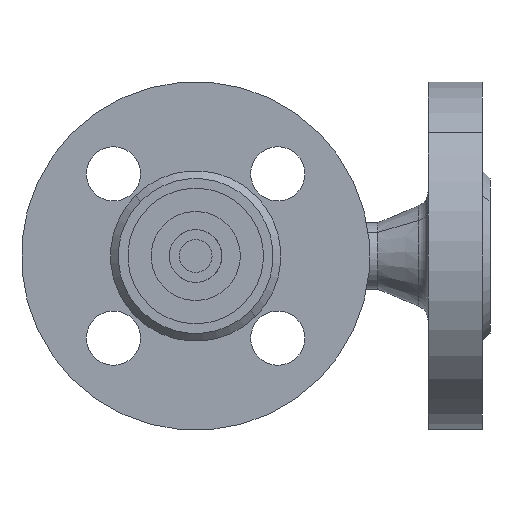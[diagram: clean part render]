
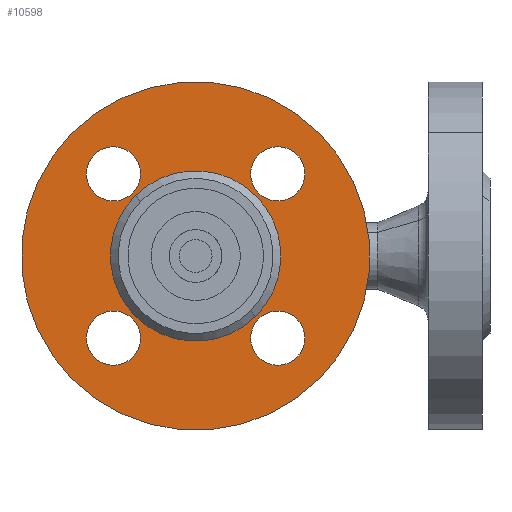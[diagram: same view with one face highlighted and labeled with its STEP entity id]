
A CAD part, front view. The second image highlights one B-rep face of the part: STEP entity #10598.
In plain terms, the highlighted planar face has unit normal (0, -1, 0).
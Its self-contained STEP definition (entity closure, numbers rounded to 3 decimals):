
#16491 = EDGE_LOOP ( 'NONE', ( #15970, #15082 ) ) ;
#213 = ORIENTED_EDGE ( 'NONE', *, *, #6995, .T. ) ;
#16740 = ORIENTED_EDGE ( 'NONE', *, *, #15158, .T. ) ;
#17082 = CIRCLE ( 'NONE', #17083, 7. ) ;
#17083 = AXIS2_PLACEMENT_3D ( 'NONE', #17084, #17085, #17086 ) ;
#17084 = CARTESIAN_POINT ( 'NONE',  ( -30., 2., 0. ) ) ;
#17085 = DIRECTION ( 'NONE',  ( 0., 1., 0. ) ) ;
#17086 = DIRECTION ( 'NONE',  ( -1., 0., 0. ) ) ;
#17252 = EDGE_CURVE ( 'NONE', #14717, #14938, #17082, .T. ) ;
#17299 = CARTESIAN_POINT ( 'NONE',  ( 22., 2., 0. ) ) ;
#929 = CARTESIAN_POINT ( 'NONE',  ( -7., 2., 30. ) ) ;
#17420 = CIRCLE ( 'NONE', #17421, 22. ) ;
#17421 = AXIS2_PLACEMENT_3D ( 'NONE', #17422, #17423, #17424 ) ;
#17422 = CARTESIAN_POINT ( 'NONE',  ( 0., 2., 0. ) ) ;
#17423 = DIRECTION ( 'NONE',  ( 0., 1., 0. ) ) ;
#17424 = DIRECTION ( 'NONE',  ( -1., 0., 0. ) ) ;
#1180 = EDGE_LOOP ( 'NONE', ( #213, #21938 ) ) ;
#17619 = ORIENTED_EDGE ( 'NONE', *, *, #17252, .T. ) ;
#17658 = EDGE_CURVE ( 'NONE', #8051, #6769, #17420, .T. ) ;
#1626 = ORIENTED_EDGE ( 'NONE', *, *, #12025, .F. ) ;
#18158 = EDGE_LOOP ( 'NONE', ( #17619, #16740 ) ) ;
#1821 = CARTESIAN_POINT ( 'NONE',  ( 7., 2., 30. ) ) ;
#1860 = CARTESIAN_POINT ( 'NONE',  ( -7., 2., -30. ) ) ;
#1932 = FACE_BOUND ( 'NONE', #10360, .T. ) ;
#1933 = FACE_BOUND ( 'NONE', #18158, .T. ) ;
#1950 = FACE_BOUND ( 'NONE', #16491, .T. ) ;
#1951 = FACE_BOUND ( 'NONE', #14844, .T. ) ;
#1952 = FACE_OUTER_BOUND ( 'NONE', #3551, .T. ) ;
#1953 = FACE_BOUND ( 'NONE', #1180, .T. ) ;
#1954 = PLANE ( 'NONE',  #1955 ) ;
#1955 = AXIS2_PLACEMENT_3D ( 'NONE', #1956, #1957, #1958 ) ;
#1956 = CARTESIAN_POINT ( 'NONE',  ( 22., 2., 0. ) ) ;
#1957 = DIRECTION ( 'NONE',  ( 0., 1., 0. ) ) ;
#1958 = DIRECTION ( 'NONE',  ( -1., 0., 0. ) ) ;
#2139 = CIRCLE ( 'NONE', #2157, 7. ) ;
#2157 = AXIS2_PLACEMENT_3D ( 'NONE', #2158, #2159, #2160 ) ;
#2158 = CARTESIAN_POINT ( 'NONE',  ( 0., 2., 30. ) ) ;
#2159 = DIRECTION ( 'NONE',  ( 0., 1., 0. ) ) ;
#2160 = DIRECTION ( 'NONE',  ( -1., 0., 0. ) ) ;
#2171 = CARTESIAN_POINT ( 'NONE',  ( 7., 2., -30. ) ) ;
#18829 = CARTESIAN_POINT ( 'NONE',  ( 45., 2., 0. ) ) ;
#2587 = ORIENTED_EDGE ( 'NONE', *, *, #9827, .F. ) ;
#2897 = CIRCLE ( 'NONE', #2915, 7. ) ;
#2915 = AXIS2_PLACEMENT_3D ( 'NONE', #2916, #2917, #2918 ) ;
#2916 = CARTESIAN_POINT ( 'NONE',  ( 0., 2., -30. ) ) ;
#2917 = DIRECTION ( 'NONE',  ( 0., 1., 0. ) ) ;
#2918 = DIRECTION ( 'NONE',  ( -1., 0., 0. ) ) ;
#19647 = CIRCLE ( 'NONE', #19648, 45. ) ;
#19648 = AXIS2_PLACEMENT_3D ( 'NONE', #19649, #19650, #19651 ) ;
#19649 = CARTESIAN_POINT ( 'NONE',  ( 0., 2., 0. ) ) ;
#19650 = DIRECTION ( 'NONE',  ( 0., 1., 0. ) ) ;
#19651 = DIRECTION ( 'NONE',  ( -1., 0., 0. ) ) ;
#19828 = CIRCLE ( 'NONE', #19829, 7. ) ;
#19829 = AXIS2_PLACEMENT_3D ( 'NONE', #19830, #19831, #19832 ) ;
#19830 = CARTESIAN_POINT ( 'NONE',  ( 0., 2., -30. ) ) ;
#19831 = DIRECTION ( 'NONE',  ( 0., 1., 0. ) ) ;
#19832 = DIRECTION ( 'NONE',  ( -1., 0., 0. ) ) ;
#3495 = CIRCLE ( 'NONE', #3496, 7. ) ;
#3496 = AXIS2_PLACEMENT_3D ( 'NONE', #3497, #3498, #3518 ) ;
#3497 = CARTESIAN_POINT ( 'NONE',  ( 30., 2., 0. ) ) ;
#3498 = DIRECTION ( 'NONE',  ( 0., 1., 0. ) ) ;
#3518 = DIRECTION ( 'NONE',  ( -1., 0., 0. ) ) ;
#3551 = EDGE_LOOP ( 'NONE', ( #2587, #1626 ) ) ;
#20099 = CARTESIAN_POINT ( 'NONE',  ( -45., 2., 0. ) ) ;
#3791 = ORIENTED_EDGE ( 'NONE', *, *, #5447, .T. ) ;
#20762 = CIRCLE ( 'NONE', #20763, 45. ) ;
#20763 = AXIS2_PLACEMENT_3D ( 'NONE', #20764, #20782, #20783 ) ;
#20764 = CARTESIAN_POINT ( 'NONE',  ( 0., 2., 0. ) ) ;
#20782 = DIRECTION ( 'NONE',  ( 0., 1., 0. ) ) ;
#20783 = DIRECTION ( 'NONE',  ( -1., 0., 0. ) ) ;
#21142 = VERTEX_POINT ( 'NONE', #929 ) ;
#4998 = VERTEX_POINT ( 'NONE', #10684 ) ;
#21559 = VERTEX_POINT ( 'NONE', #1821 ) ;
#5224 = VERTEX_POINT ( 'NONE', #10968 ) ;
#5447 = EDGE_CURVE ( 'NONE', #5224, #4998, #11124, .T. ) ;
#21938 = ORIENTED_EDGE ( 'NONE', *, *, #17658, .T. ) ;
#21973 = EDGE_CURVE ( 'NONE', #21559, #21142, #2139, .T. ) ;
#6769 = VERTEX_POINT ( 'NONE', #13527 ) ;
#6995 = EDGE_CURVE ( 'NONE', #6769, #8051, #14638, .T. ) ;
#8051 = VERTEX_POINT ( 'NONE', #17299 ) ;
#8948 = ORIENTED_EDGE ( 'NONE', *, *, #10974, .T. ) ;
#9376 = VERTEX_POINT ( 'NONE', #18829 ) ;
#9471 = EDGE_CURVE ( 'NONE', #10522, #10747, #19828, .T. ) ;
#9601 = VERTEX_POINT ( 'NONE', #20099 ) ;
#9827 = EDGE_CURVE ( 'NONE', #9601, #9376, #20762, .T. ) ;
#9844 = ORIENTED_EDGE ( 'NONE', *, *, #9471, .T. ) ;
#10360 = EDGE_LOOP ( 'NONE', ( #9844, #8948 ) ) ;
#10522 = VERTEX_POINT ( 'NONE', #1860 ) ;
#10598 = ADVANCED_FACE ( 'NONE', ( #1932, #1933, #1950, #1951, #1952, #1953 ), #1954, .F. ) ;
#10684 = CARTESIAN_POINT ( 'NONE',  ( 23., 2., 0. ) ) ;
#10747 = VERTEX_POINT ( 'NONE', #2171 ) ;
#10968 = CARTESIAN_POINT ( 'NONE',  ( 37., 2., 0. ) ) ;
#10974 = EDGE_CURVE ( 'NONE', #10747, #10522, #2897, .T. ) ;
#11008 = CARTESIAN_POINT ( 'NONE',  ( -37., 2., 0. ) ) ;
#11124 = CIRCLE ( 'NONE', #11125, 7. ) ;
#11125 = AXIS2_PLACEMENT_3D ( 'NONE', #11126, #11127, #11128 ) ;
#11126 = CARTESIAN_POINT ( 'NONE',  ( 30., 2., 0. ) ) ;
#11127 = DIRECTION ( 'NONE',  ( 0., 1., 0. ) ) ;
#11128 = DIRECTION ( 'NONE',  ( -1., 0., 0. ) ) ;
#11134 = CARTESIAN_POINT ( 'NONE',  ( -23., 2., 0. ) ) ;
#11366 = CIRCLE ( 'NONE', #11367, 7. ) ;
#11367 = AXIS2_PLACEMENT_3D ( 'NONE', #11368, #11369, #11370 ) ;
#11368 = CARTESIAN_POINT ( 'NONE',  ( -30., 2., 0. ) ) ;
#11369 = DIRECTION ( 'NONE',  ( 0., 1., 0. ) ) ;
#11370 = DIRECTION ( 'NONE',  ( -1., 0., 0. ) ) ;
#12025 = EDGE_CURVE ( 'NONE', #9376, #9601, #19647, .T. ) ;
#12368 = CIRCLE ( 'NONE', #12369, 7. ) ;
#12369 = AXIS2_PLACEMENT_3D ( 'NONE', #12370, #12371, #12372 ) ;
#12370 = CARTESIAN_POINT ( 'NONE',  ( 0., 2., 30. ) ) ;
#12371 = DIRECTION ( 'NONE',  ( 0., 1., 0. ) ) ;
#12372 = DIRECTION ( 'NONE',  ( -1., 0., 0. ) ) ;
#13527 = CARTESIAN_POINT ( 'NONE',  ( -22., 2., 0. ) ) ;
#13795 = EDGE_CURVE ( 'NONE', #4998, #5224, #3495, .T. ) ;
#14160 = ORIENTED_EDGE ( 'NONE', *, *, #13795, .T. ) ;
#14638 = CIRCLE ( 'NONE', #14639, 22. ) ;
#14639 = AXIS2_PLACEMENT_3D ( 'NONE', #14644, #14645, #14646 ) ;
#14644 = CARTESIAN_POINT ( 'NONE',  ( 0., 2., 0. ) ) ;
#14645 = DIRECTION ( 'NONE',  ( 0., 1., 0. ) ) ;
#14646 = DIRECTION ( 'NONE',  ( -1., 0., 0. ) ) ;
#14717 = VERTEX_POINT ( 'NONE', #11008 ) ;
#14844 = EDGE_LOOP ( 'NONE', ( #14160, #3791 ) ) ;
#14938 = VERTEX_POINT ( 'NONE', #11134 ) ;
#15082 = ORIENTED_EDGE ( 'NONE', *, *, #21973, .T. ) ;
#15158 = EDGE_CURVE ( 'NONE', #14938, #14717, #11366, .T. ) ;
#15599 = EDGE_CURVE ( 'NONE', #21142, #21559, #12368, .T. ) ;
#15970 = ORIENTED_EDGE ( 'NONE', *, *, #15599, .T. ) ;
